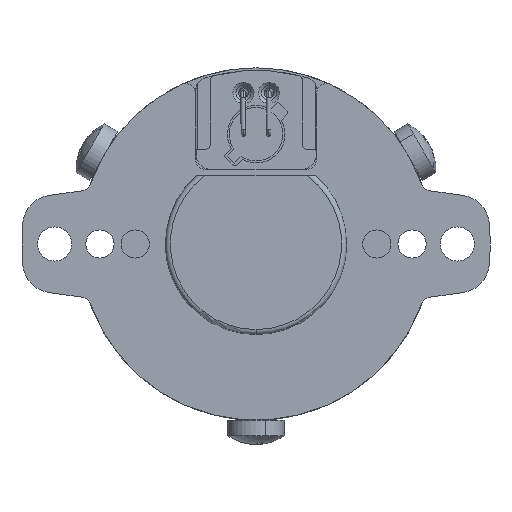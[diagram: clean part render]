
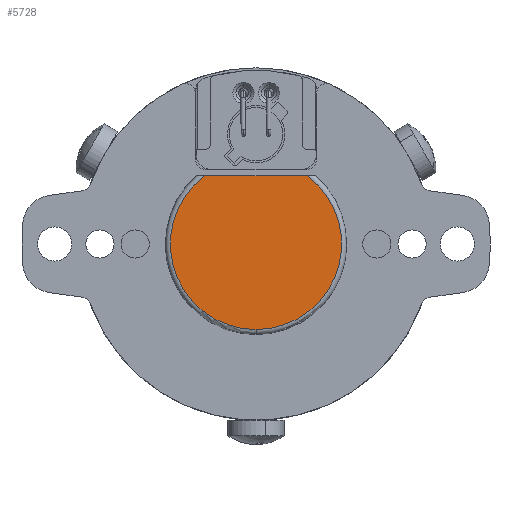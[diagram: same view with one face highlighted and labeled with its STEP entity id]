
A CAD part, left-side view. The second image highlights one B-rep face of the part: STEP entity #5728.
In plain terms, the highlighted planar face has unit normal (-1, 0, 0).
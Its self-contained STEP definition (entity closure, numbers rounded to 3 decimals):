
#144 = VERTEX_POINT ( 'NONE', #13316 ) ;
#1122 = DIRECTION ( 'NONE',  ( 0., 0., -1. ) ) ;
#1191 = CIRCLE ( 'NONE', #12641, 8.5 ) ;
#1804 = FACE_OUTER_BOUND ( 'NONE', #8599, .T. ) ;
#1904 = DIRECTION ( 'NONE',  ( 0., 0., -1. ) ) ;
#2570 = LINE ( 'NONE', #11625, #6576 ) ;
#3517 = VERTEX_POINT ( 'NONE', #7729 ) ;
#3551 = CARTESIAN_POINT ( 'NONE',  ( 27.076, 0., 0. ) ) ;
#4287 = DIRECTION ( 'NONE',  ( 0., 1., 0. ) ) ;
#4415 = PLANE ( 'NONE',  #15302 ) ;
#5332 = VERTEX_POINT ( 'NONE', #11513 ) ;
#5728 = ADVANCED_FACE ( 'NONE', ( #1804 ), #4415, .T. ) ;
#6576 = VECTOR ( 'NONE', #4287, 1000. ) ;
#7138 = ORIENTED_EDGE ( 'NONE', *, *, #11333, .T. ) ;
#7729 = CARTESIAN_POINT ( 'NONE',  ( 27.076, 5.1, 6.8 ) ) ;
#7872 = ORIENTED_EDGE ( 'NONE', *, *, #15842, .T. ) ;
#8445 = DIRECTION ( 'NONE',  ( -1., 0., 0. ) ) ;
#8599 = EDGE_LOOP ( 'NONE', ( #14050, #7872, #7138 ) ) ;
#10501 = CIRCLE ( 'NONE', #12822, 8.5 ) ;
#10530 = CARTESIAN_POINT ( 'NONE',  ( 27.076, 0., 0. ) ) ;
#11108 = DIRECTION ( 'NONE',  ( -1., 0., 0. ) ) ;
#11261 = CARTESIAN_POINT ( 'NONE',  ( 27.076, 0., 0. ) ) ;
#11333 = EDGE_CURVE ( 'NONE', #5332, #144, #10501, .T. ) ;
#11513 = CARTESIAN_POINT ( 'NONE',  ( 27.076, 0., -8.5 ) ) ;
#11625 = CARTESIAN_POINT ( 'NONE',  ( 27.076, 10., 6.8 ) ) ;
#12501 = DIRECTION ( 'NONE',  ( 0., 0., -1. ) ) ;
#12641 = AXIS2_PLACEMENT_3D ( 'NONE', #3551, #8445, #1122 ) ;
#12822 = AXIS2_PLACEMENT_3D ( 'NONE', #11261, #11108, #12501 ) ;
#13316 = CARTESIAN_POINT ( 'NONE',  ( 27.076, -5.1, 6.8 ) ) ;
#13700 = EDGE_CURVE ( 'NONE', #144, #3517, #2570, .T. ) ;
#14050 = ORIENTED_EDGE ( 'NONE', *, *, #13700, .T. ) ;
#14142 = DIRECTION ( 'NONE',  ( -1., 0., 0. ) ) ;
#15302 = AXIS2_PLACEMENT_3D ( 'NONE', #10530, #14142, #1904 ) ;
#15842 = EDGE_CURVE ( 'NONE', #3517, #5332, #1191, .T. ) ;
